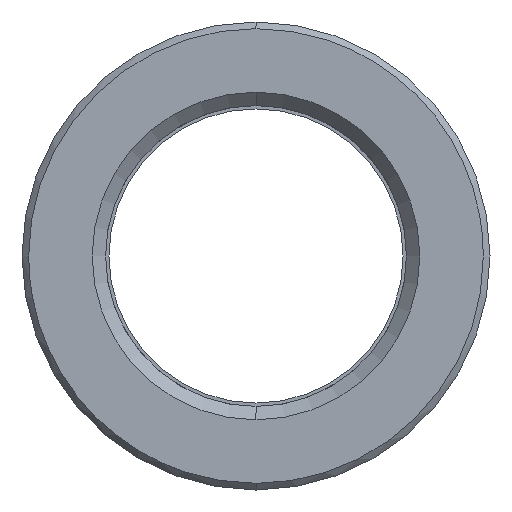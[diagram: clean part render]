
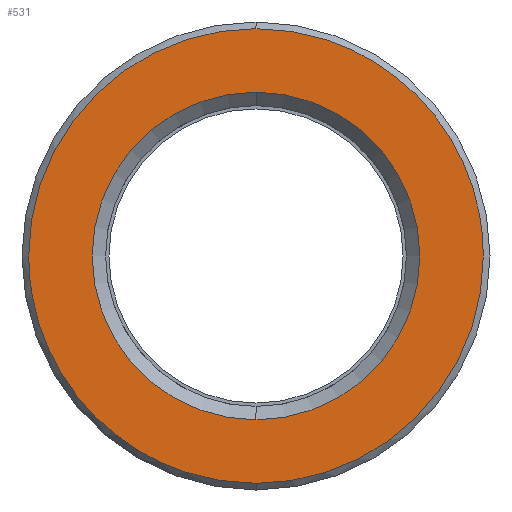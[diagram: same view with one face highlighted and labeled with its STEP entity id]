
A CAD part, left-side view. The second image highlights one B-rep face of the part: STEP entity #531.
In plain terms, the highlighted planar face has unit normal (-1, 0, 0).
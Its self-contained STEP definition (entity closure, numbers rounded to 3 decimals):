
#311=CARTESIAN_POINT('Axis2P3D Location',(0.,0.,0.)) ;
#315=CARTESIAN_POINT('Vertex',(0.,12.25,0.)) ;
#317=CARTESIAN_POINT('Vertex',(0.,0.,12.25)) ;
#320=CARTESIAN_POINT('Axis2P3D Location',(0.,0.,0.)) ;
#324=CARTESIAN_POINT('Vertex',(0.,0.,-12.25)) ;
#351=CARTESIAN_POINT('Axis2P3D Location',(0.,0.,0.)) ;
#355=CARTESIAN_POINT('Vertex',(0.,-12.25,0.)) ;
#358=CARTESIAN_POINT('Axis2P3D Location',(0.,0.,0.)) ;
#438=CARTESIAN_POINT('Axis2P3D Location',(0.,17.,0.)) ;
#444=CARTESIAN_POINT('Control Point',(0.,0.,-17.)) ;
#445=CARTESIAN_POINT('Control Point',(0.,1.123,-17.)) ;
#446=CARTESIAN_POINT('Control Point',(0.,2.246,-16.907)) ;
#447=CARTESIAN_POINT('Control Point',(0.,3.359,-16.722)) ;
#448=CARTESIAN_POINT('Control Point',(0.,6.023,-16.047)) ;
#449=CARTESIAN_POINT('Control Point',(0.,8.508,-14.851)) ;
#450=CARTESIAN_POINT('Control Point',(0.,9.884,-13.974)) ;
#451=CARTESIAN_POINT('Control Point',(0.,12.399,-11.909)) ;
#452=CARTESIAN_POINT('Control Point',(0.,14.361,-9.312)) ;
#453=CARTESIAN_POINT('Control Point',(0.,15.182,-7.903)) ;
#454=CARTESIAN_POINT('Control Point',(0.,16.222,-5.498)) ;
#455=CARTESIAN_POINT('Control Point',(0.,16.786,-2.951)) ;
#456=CARTESIAN_POINT('Control Point',(0.,16.929,-1.972)) ;
#457=CARTESIAN_POINT('Control Point',(0.,17.,-0.986)) ;
#458=CARTESIAN_POINT('Control Point',(0.,17.,0.)) ;
#459=CARTESIAN_POINT('Vertex',(0.,0.,-17.)) ;
#461=CARTESIAN_POINT('Vertex',(0.,17.,0.)) ;
#465=CARTESIAN_POINT('Control Point',(0.,-17.,0.)) ;
#466=CARTESIAN_POINT('Control Point',(0.,-17.,-1.616)) ;
#467=CARTESIAN_POINT('Control Point',(0.,-16.808,-3.232)) ;
#468=CARTESIAN_POINT('Control Point',(0.,-16.424,-4.817)) ;
#469=CARTESIAN_POINT('Control Point',(0.,-15.287,-7.867)) ;
#470=CARTESIAN_POINT('Control Point',(0.,-13.466,-10.565)) ;
#471=CARTESIAN_POINT('Control Point',(0.,-12.399,-11.799)) ;
#472=CARTESIAN_POINT('Control Point',(0.,-9.993,-13.99)) ;
#473=CARTESIAN_POINT('Control Point',(0.,-7.14,-15.556)) ;
#474=CARTESIAN_POINT('Control Point',(0.,-5.626,-16.165)) ;
#475=CARTESIAN_POINT('Control Point',(0.,-3.576,-16.717)) ;
#476=CARTESIAN_POINT('Control Point',(0.,-1.478,-16.946)) ;
#477=CARTESIAN_POINT('Control Point',(0.,-0.986,-16.982)) ;
#478=CARTESIAN_POINT('Control Point',(0.,-0.493,-17.)) ;
#479=CARTESIAN_POINT('Control Point',(0.,0.,-17.)) ;
#480=CARTESIAN_POINT('Vertex',(0.,-17.,0.)) ;
#484=CARTESIAN_POINT('Control Point',(0.,0.,17.)) ;
#485=CARTESIAN_POINT('Control Point',(0.,-1.123,17.)) ;
#486=CARTESIAN_POINT('Control Point',(0.,-2.246,16.907)) ;
#487=CARTESIAN_POINT('Control Point',(0.,-3.359,16.722)) ;
#488=CARTESIAN_POINT('Control Point',(0.,-6.023,16.047)) ;
#489=CARTESIAN_POINT('Control Point',(0.,-8.508,14.851)) ;
#490=CARTESIAN_POINT('Control Point',(0.,-9.884,13.974)) ;
#491=CARTESIAN_POINT('Control Point',(0.,-12.399,11.909)) ;
#492=CARTESIAN_POINT('Control Point',(0.,-14.361,9.312)) ;
#493=CARTESIAN_POINT('Control Point',(0.,-15.182,7.903)) ;
#494=CARTESIAN_POINT('Control Point',(0.,-16.222,5.498)) ;
#495=CARTESIAN_POINT('Control Point',(0.,-16.786,2.951)) ;
#496=CARTESIAN_POINT('Control Point',(0.,-16.929,1.972)) ;
#497=CARTESIAN_POINT('Control Point',(0.,-17.,0.986)) ;
#498=CARTESIAN_POINT('Control Point',(0.,-17.,0.)) ;
#499=CARTESIAN_POINT('Vertex',(0.,0.,17.)) ;
#503=CARTESIAN_POINT('Control Point',(0.,17.,0.)) ;
#504=CARTESIAN_POINT('Control Point',(0.,17.,1.616)) ;
#505=CARTESIAN_POINT('Control Point',(0.,16.808,3.232)) ;
#506=CARTESIAN_POINT('Control Point',(0.,16.424,4.817)) ;
#507=CARTESIAN_POINT('Control Point',(0.,15.287,7.867)) ;
#508=CARTESIAN_POINT('Control Point',(0.,13.466,10.565)) ;
#509=CARTESIAN_POINT('Control Point',(0.,12.399,11.799)) ;
#510=CARTESIAN_POINT('Control Point',(0.,9.993,13.99)) ;
#511=CARTESIAN_POINT('Control Point',(0.,7.14,15.556)) ;
#512=CARTESIAN_POINT('Control Point',(0.,5.626,16.165)) ;
#513=CARTESIAN_POINT('Control Point',(0.,3.576,16.717)) ;
#514=CARTESIAN_POINT('Control Point',(0.,1.478,16.946)) ;
#515=CARTESIAN_POINT('Control Point',(0.,0.986,16.982)) ;
#516=CARTESIAN_POINT('Control Point',(0.,0.493,17.)) ;
#517=CARTESIAN_POINT('Control Point',(0.,0.,17.)) ;
#312=DIRECTION('Axis2P3D Direction',(-1.,0.,0.)) ;
#321=DIRECTION('Axis2P3D Direction',(-1.,0.,0.)) ;
#352=DIRECTION('Axis2P3D Direction',(-1.,0.,0.)) ;
#359=DIRECTION('Axis2P3D Direction',(-1.,0.,0.)) ;
#439=DIRECTION('Axis2P3D Direction',(-1.,0.,0.)) ;
#440=DIRECTION('Axis2P3D XDirection',(0.,0.,1.)) ;
#313=AXIS2_PLACEMENT_3D('Circle Axis2P3D',#311,#312,$) ;
#322=AXIS2_PLACEMENT_3D('Circle Axis2P3D',#320,#321,$) ;
#353=AXIS2_PLACEMENT_3D('Circle Axis2P3D',#351,#352,$) ;
#360=AXIS2_PLACEMENT_3D('Circle Axis2P3D',#358,#359,$) ;
#441=AXIS2_PLACEMENT_3D('Plane Axis2P3D',#438,#439,#440) ;
#520=ORIENTED_EDGE('',*,*,#463,.F.) ;
#521=ORIENTED_EDGE('',*,*,#482,.F.) ;
#522=ORIENTED_EDGE('',*,*,#501,.F.) ;
#523=ORIENTED_EDGE('',*,*,#518,.F.) ;
#526=ORIENTED_EDGE('',*,*,#319,.T.) ;
#527=ORIENTED_EDGE('',*,*,#362,.T.) ;
#528=ORIENTED_EDGE('',*,*,#357,.T.) ;
#529=ORIENTED_EDGE('',*,*,#326,.T.) ;
#530=FACE_BOUND('',#525,.T.) ;
#531=ADVANCED_FACE('553-22X96',(#524,#530),#442,.T.) ;
#443=B_SPLINE_CURVE_WITH_KNOTS('',5,(#444,#445,#446,#447,#448,#449,#450,#451,#452,#453,#454,#455,#456,#457,#458),.UNSPECIFIED.,.F.,.U.,(6,3,3,3,6),(37.764,45.705,57.131,68.557,75.528),.UNSPECIFIED.) ;
#464=B_SPLINE_CURVE_WITH_KNOTS('',5,(#465,#466,#467,#468,#469,#470,#471,#472,#473,#474,#475,#476,#477,#478,#479),.UNSPECIFIED.,.F.,.U.,(6,3,3,3,6),(0.,11.426,22.852,34.279,37.764),.UNSPECIFIED.) ;
#483=B_SPLINE_CURVE_WITH_KNOTS('',5,(#484,#485,#486,#487,#488,#489,#490,#491,#492,#493,#494,#495,#496,#497,#498),.UNSPECIFIED.,.F.,.U.,(6,3,3,3,6),(37.764,45.705,57.131,68.557,75.528),.UNSPECIFIED.) ;
#502=B_SPLINE_CURVE_WITH_KNOTS('',5,(#503,#504,#505,#506,#507,#508,#509,#510,#511,#512,#513,#514,#515,#516,#517),.UNSPECIFIED.,.F.,.U.,(6,3,3,3,6),(0.,11.426,22.852,34.279,37.764),.UNSPECIFIED.) ;
#314=CIRCLE('generated circle',#313,12.25) ;
#323=CIRCLE('generated circle',#322,12.25) ;
#354=CIRCLE('generated circle',#353,12.25) ;
#361=CIRCLE('generated circle',#360,12.25) ;
#319=EDGE_CURVE('',#316,#318,#314,.F.) ;
#326=EDGE_CURVE('',#325,#316,#323,.F.) ;
#357=EDGE_CURVE('',#356,#325,#354,.F.) ;
#362=EDGE_CURVE('',#318,#356,#361,.F.) ;
#463=EDGE_CURVE('',#460,#462,#443,.T.) ;
#482=EDGE_CURVE('',#481,#460,#464,.T.) ;
#501=EDGE_CURVE('',#500,#481,#483,.T.) ;
#518=EDGE_CURVE('',#462,#500,#502,.T.) ;
#519=EDGE_LOOP('',(#520,#521,#522,#523)) ;
#525=EDGE_LOOP('',(#526,#527,#528,#529)) ;
#524=FACE_OUTER_BOUND('',#519,.T.) ;
#442=PLANE('Plane',#441) ;
#316=VERTEX_POINT('',#315) ;
#318=VERTEX_POINT('',#317) ;
#325=VERTEX_POINT('',#324) ;
#356=VERTEX_POINT('',#355) ;
#460=VERTEX_POINT('',#459) ;
#462=VERTEX_POINT('',#461) ;
#481=VERTEX_POINT('',#480) ;
#500=VERTEX_POINT('',#499) ;
